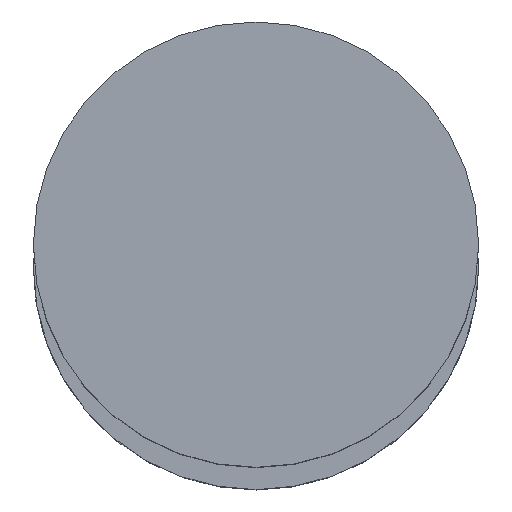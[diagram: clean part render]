
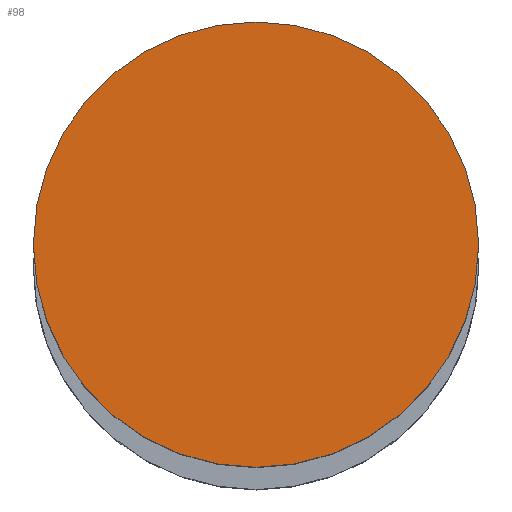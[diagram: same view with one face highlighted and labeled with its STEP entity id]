
A CAD part, top view. The second image highlights one B-rep face of the part: STEP entity #98.
In plain terms, the highlighted planar face has unit normal (0, 0, 1).
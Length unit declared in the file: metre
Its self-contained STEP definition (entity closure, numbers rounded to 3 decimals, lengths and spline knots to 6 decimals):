
#98=ADVANCED_FACE('25:217',(#190),#191,.T.);
#190=FACE_OUTER_BOUND('',#277,.T.);
#191=PLANE('',#278);
#277=EDGE_LOOP('',(#445,#446));
#278=AXIS2_PLACEMENT_3D('',#447,#448,#449);
#445=ORIENTED_EDGE('',*,*,#549,.F.);
#446=ORIENTED_EDGE('',*,*,#538,.F.);
#447=CARTESIAN_POINT('',(0.0,0.0,3.554));
#448=DIRECTION('',(0.0,0.0,1.0));
#449=DIRECTION('',(1.0,0.0,0.0));
#538=EDGE_CURVE('',#649,#651,#652,.F.);
#549=EDGE_CURVE('',#651,#649,#664,.F.);
#649=VERTEX_POINT('',#785);
#651=VERTEX_POINT('',#788);
#652=CIRCLE('',#789,0.0155);
#664=CIRCLE('',#802,0.0155);
#785=CARTESIAN_POINT('',(0.015408,0.000095,3.554));
#788=CARTESIAN_POINT('',(-0.015592,0.000095,3.554));
#789=AXIS2_PLACEMENT_3D('',#911,#912,#913);
#802=AXIS2_PLACEMENT_3D('',#927,#928,#929);
#911=CARTESIAN_POINT('',(-0.000092,0.000095,3.554));
#912=DIRECTION('',(0.0,0.0,1.0));
#913=DIRECTION('',(1.0,0.0,0.0));
#927=CARTESIAN_POINT('',(-0.000092,0.000095,3.554));
#928=DIRECTION('',(0.0,0.0,1.0));
#929=DIRECTION('',(1.0,0.0,0.0));
